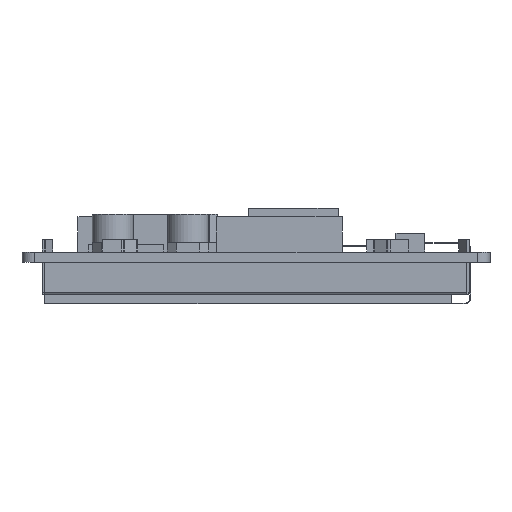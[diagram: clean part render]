
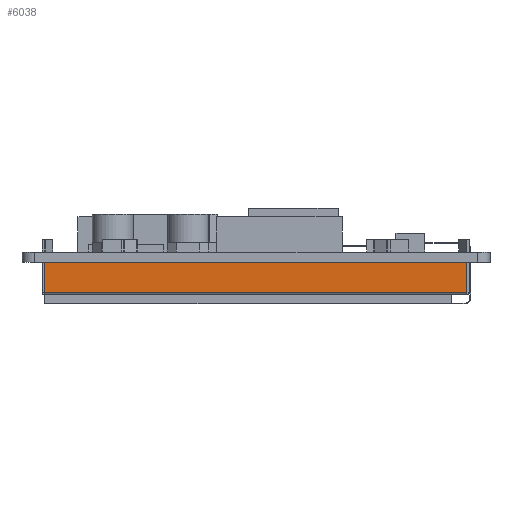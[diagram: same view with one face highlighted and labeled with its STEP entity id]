
A CAD part, left-side view. The second image highlights one B-rep face of the part: STEP entity #6038.
In plain terms, the highlighted planar face has unit normal (-1, 0, 0).
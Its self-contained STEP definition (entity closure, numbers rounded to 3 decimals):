
#6038=ADVANCED_FACE('',(#10176),#8103,.F.);
#8103=PLANE('',#38782);
#10176=FACE_OUTER_BOUND('',#12331,.T.);
#12331=EDGE_LOOP('',(#17089,#17090,#17091,#17092));
#17089=ORIENTED_EDGE('',*,*,#26932,.T.);
#17090=ORIENTED_EDGE('',*,*,#26933,.F.);
#17091=ORIENTED_EDGE('',*,*,#26934,.F.);
#17092=ORIENTED_EDGE('',*,*,#26935,.T.);
#23463=VERTEX_POINT('',#52773);
#23464=VERTEX_POINT('',#52774);
#23465=VERTEX_POINT('',#52776);
#23466=VERTEX_POINT('',#52778);
#26932=EDGE_CURVE('',#23463,#23464,#31171,.T.);
#26933=EDGE_CURVE('',#23465,#23464,#31172,.T.);
#26934=EDGE_CURVE('',#23466,#23465,#31173,.T.);
#26935=EDGE_CURVE('',#23466,#23463,#31174,.T.);
#31171=LINE('',#52772,#35340);
#31172=LINE('',#52775,#35341);
#31173=LINE('',#52777,#35342);
#31174=LINE('',#52779,#35343);
#35340=VECTOR('',#43549,1.);
#35341=VECTOR('',#43550,1.);
#35342=VECTOR('',#43551,1.);
#35343=VECTOR('',#43552,1.);
#38782=AXIS2_PLACEMENT_3D('',#52780,#43553,#43554);
#43549=DIRECTION('',(0.,1.,0.));
#43550=DIRECTION('',(0.,0.,1.));
#43551=DIRECTION('',(0.,1.,0.));
#43552=DIRECTION('',(0.,0.,1.));
#43553=DIRECTION('',(1.,0.,0.));
#43554=DIRECTION('',(0.,1.,0.));
#52772=CARTESIAN_POINT('',(67.65,-14.395,-1.6));
#52773=CARTESIAN_POINT('',(67.65,-14.395,-1.6));
#52774=CARTESIAN_POINT('',(67.65,53.005,-1.6));
#52775=CARTESIAN_POINT('',(67.65,53.005,-6.4));
#52776=CARTESIAN_POINT('',(67.65,53.005,-6.4));
#52777=CARTESIAN_POINT('',(67.65,-14.395,-6.4));
#52778=CARTESIAN_POINT('',(67.65,-14.395,-6.4));
#52779=CARTESIAN_POINT('',(67.65,-14.395,-6.4));
#52780=CARTESIAN_POINT('',(67.65,-14.395,-6.4));
